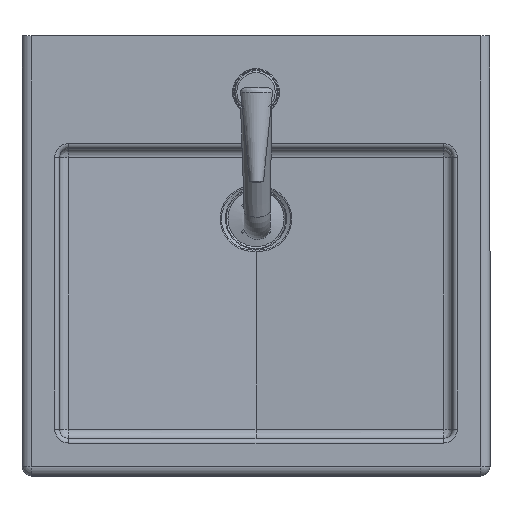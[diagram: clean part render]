
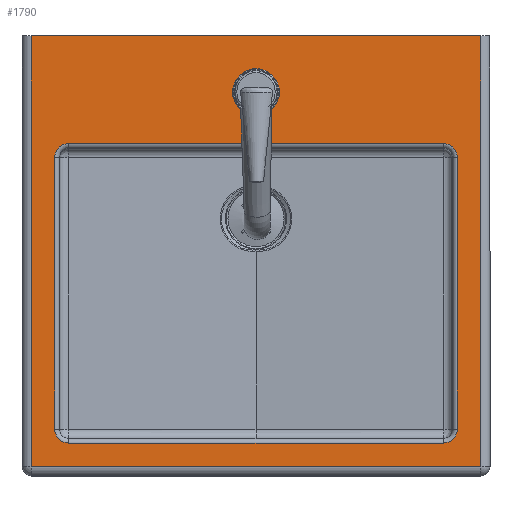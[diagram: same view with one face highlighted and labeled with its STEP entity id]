
A CAD part, top view. The second image highlights one B-rep face of the part: STEP entity #1790.
In plain terms, the highlighted planar face has unit normal (0, 0, 1).
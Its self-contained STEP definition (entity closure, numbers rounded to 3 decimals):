
#1358=CARTESIAN_POINT('',(420.777,15.563,130.0));
#1359=VERTEX_POINT('',#1358);
#1377=CARTESIAN_POINT('',(20.777,15.563,130.0));
#1378=VERTEX_POINT('',#1377);
#1386=CARTESIAN_POINT('',(20.777,15.563,130.0));
#1387=DIRECTION('',(1.0,0.0,0.0));
#1388=VECTOR('',#1387,400.);
#1389=LINE('',#1386,#1388);
#1390=EDGE_CURVE('',#1378,#1359,#1389,.T.);
#1400=CARTESIAN_POINT('',(435.777,30.563,130.0));
#1401=VERTEX_POINT('',#1400);
#1419=CARTESIAN_POINT('',(420.777,30.563,130.0));
#1420=DIRECTION('',(0.0,0.0,1.0));
#1421=DIRECTION('',(0.707,-0.707,0.0));
#1422=AXIS2_PLACEMENT_3D('',#1419,#1420,#1421);
#1423=CIRCLE('',#1422,15.);
#1424=EDGE_CURVE('',#1359,#1401,#1423,.T.);
#1436=CARTESIAN_POINT('',(5.777,30.563,130.0));
#1437=VERTEX_POINT('',#1436);
#1445=CARTESIAN_POINT('',(20.777,30.563,130.0));
#1446=DIRECTION('',(0.0,0.0,1.));
#1447=DIRECTION('',(-0.707,-0.707,0.0));
#1448=AXIS2_PLACEMENT_3D('',#1445,#1446,#1447);
#1449=CIRCLE('',#1448,15.);
#1450=EDGE_CURVE('',#1437,#1378,#1449,.T.);
#1468=CARTESIAN_POINT('',(435.777,320.563,130.0));
#1469=VERTEX_POINT('',#1468);
#1486=CARTESIAN_POINT('',(435.777,30.563,130.0));
#1487=DIRECTION('',(0.0,1.0,0.0));
#1488=VECTOR('',#1487,290.);
#1489=LINE('',#1486,#1488);
#1490=EDGE_CURVE('',#1401,#1469,#1489,.T.);
#1502=CARTESIAN_POINT('',(5.777,320.563,130.0));
#1503=VERTEX_POINT('',#1502);
#1511=CARTESIAN_POINT('',(5.777,320.563,130.0));
#1512=DIRECTION('',(0.0,-1.0,0.0));
#1513=VECTOR('',#1512,290.0);
#1514=LINE('',#1511,#1513);
#1515=EDGE_CURVE('',#1503,#1437,#1514,.T.);
#1532=CARTESIAN_POINT('',(420.777,335.563,130.0));
#1533=VERTEX_POINT('',#1532);
#1551=CARTESIAN_POINT('',(420.777,320.563,130.0));
#1552=DIRECTION('',(0.0,0.0,1.));
#1553=DIRECTION('',(0.707,0.707,0.0));
#1554=AXIS2_PLACEMENT_3D('',#1551,#1552,#1553);
#1555=CIRCLE('',#1554,15.0);
#1556=EDGE_CURVE('',#1469,#1533,#1555,.T.);
#1568=CARTESIAN_POINT('',(20.777,335.563,130.0));
#1569=VERTEX_POINT('',#1568);
#1577=CARTESIAN_POINT('',(20.777,320.563,130.0));
#1578=DIRECTION('',(0.0,0.0,1.0));
#1579=DIRECTION('',(-0.707,0.707,0.0));
#1580=AXIS2_PLACEMENT_3D('',#1577,#1578,#1579);
#1581=CIRCLE('',#1580,15.);
#1582=EDGE_CURVE('',#1569,#1503,#1581,.T.);
#1601=CARTESIAN_POINT('',(420.777,335.563,130.0));
#1602=DIRECTION('',(-1.0,0.0,0.0));
#1603=VECTOR('',#1602,400.);
#1604=LINE('',#1601,#1603);
#1605=EDGE_CURVE('',#1533,#1569,#1604,.T.);
#1730=CARTESIAN_POINT('',(220.777,215.563,130.0));
#1731=DIRECTION('',(0.0,0.0,1.0));
#1732=DIRECTION('',(1.0,0.0,0.0));
#1733=AXIS2_PLACEMENT_3D('',#1730,#1731,#1732);
#1734=PLANE('',#1733);
#1735=CARTESIAN_POINT('',(460.777,450.563,130.0));
#1736=VERTEX_POINT('',#1735);
#1737=CARTESIAN_POINT('',(460.777,-9.437,130.0));
#1738=VERTEX_POINT('',#1737);
#1739=CARTESIAN_POINT('',(460.777,450.563,130.0));
#1740=DIRECTION('',(0.0,-1.0,0.0));
#1741=VECTOR('',#1740,460.0);
#1742=LINE('',#1739,#1741);
#1743=EDGE_CURVE('',#1736,#1738,#1742,.T.);
#1744=ORIENTED_EDGE('',*,*,#1743,.F.);
#1745=CARTESIAN_POINT('',(-19.223,450.563,130.0));
#1746=VERTEX_POINT('',#1745);
#1747=CARTESIAN_POINT('',(-19.223,450.563,130.0));
#1748=DIRECTION('',(1.0,0.0,0.0));
#1749=VECTOR('',#1748,480.);
#1750=LINE('',#1747,#1749);
#1751=EDGE_CURVE('',#1746,#1736,#1750,.T.);
#1752=ORIENTED_EDGE('',*,*,#1751,.F.);
#1753=CARTESIAN_POINT('',(-19.223,-9.437,130.0));
#1754=VERTEX_POINT('',#1753);
#1755=CARTESIAN_POINT('',(-19.223,-9.437,130.0));
#1756=DIRECTION('',(0.0,1.0,0.0));
#1757=VECTOR('',#1756,460.0);
#1758=LINE('',#1755,#1757);
#1759=EDGE_CURVE('',#1754,#1746,#1758,.T.);
#1760=ORIENTED_EDGE('',*,*,#1759,.F.);
#1761=CARTESIAN_POINT('',(460.777,-9.437,130.0));
#1762=DIRECTION('',(-1.0,0.0,0.0));
#1763=VECTOR('',#1762,480.);
#1764=LINE('',#1761,#1763);
#1765=EDGE_CURVE('',#1738,#1754,#1764,.T.);
#1766=ORIENTED_EDGE('',*,*,#1765,.F.);
#1767=EDGE_LOOP('',(#1744,#1752,#1760,#1766));
#1768=FACE_OUTER_BOUND('',#1767,.T.);
#1769=CARTESIAN_POINT('',(241.277,390.563,130.0));
#1770=VERTEX_POINT('',#1769);
#1771=CARTESIAN_POINT('',(220.777,390.563,130.0));
#1772=DIRECTION('',(0.0,0.0,1.0));
#1773=DIRECTION('',(-1.0,0.0,0.0));
#1774=AXIS2_PLACEMENT_3D('',#1771,#1772,#1773);
#1775=CIRCLE('',#1774,20.5);
#1776=EDGE_CURVE('',#1770,#1770,#1775,.T.);
#1777=ORIENTED_EDGE('',*,*,#1776,.F.);
#1778=EDGE_LOOP('',(#1777));
#1779=FACE_BOUND('',#1778,.T.);
#1780=ORIENTED_EDGE('',*,*,#1390,.F.);
#1781=ORIENTED_EDGE('',*,*,#1450,.F.);
#1782=ORIENTED_EDGE('',*,*,#1515,.F.);
#1783=ORIENTED_EDGE('',*,*,#1582,.F.);
#1784=ORIENTED_EDGE('',*,*,#1605,.F.);
#1785=ORIENTED_EDGE('',*,*,#1556,.F.);
#1786=ORIENTED_EDGE('',*,*,#1490,.F.);
#1787=ORIENTED_EDGE('',*,*,#1424,.F.);
#1788=EDGE_LOOP('',(#1780,#1781,#1782,#1783,#1784,#1785,#1786,#1787));
#1789=FACE_BOUND('',#1788,.T.);
#1790=ADVANCED_FACE('',(#1768,#1779,#1789),#1734,.T.);
